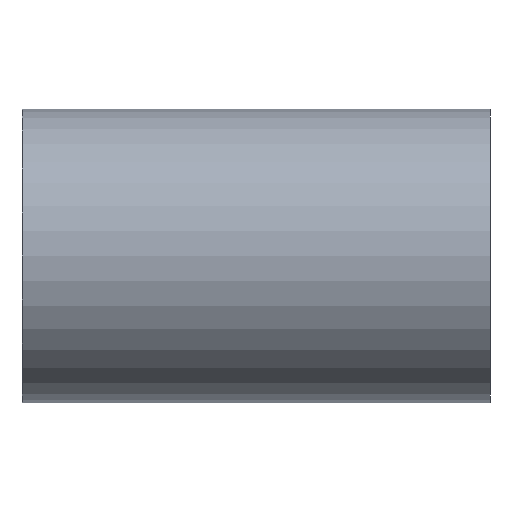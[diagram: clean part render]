
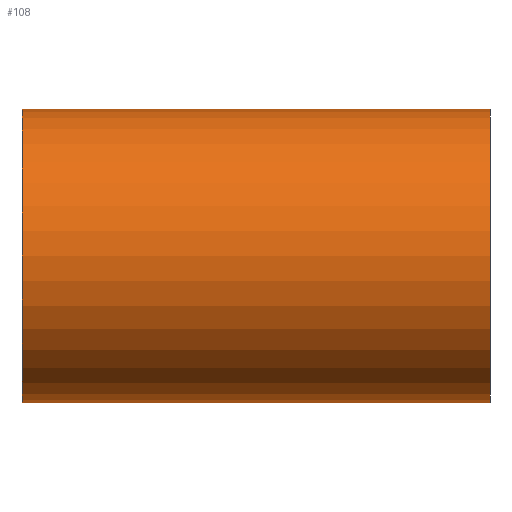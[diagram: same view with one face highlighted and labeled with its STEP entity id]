
A CAD part, front view. The second image highlights one B-rep face of the part: STEP entity #108.
In plain terms, the highlighted cylindrical face has radius 395 mm (diameter 790 mm), a partial arc.
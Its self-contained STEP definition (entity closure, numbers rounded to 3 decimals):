
#108=ADVANCED_FACE('',(#212),#213,.T.);
#212=FACE_OUTER_BOUND('',#335,.T.);
#213=CYLINDRICAL_SURFACE('',#336,395.0);
#335=EDGE_LOOP('',(#587,#588,#589,#590));
#336=AXIS2_PLACEMENT_3D('',#591,#592,#593);
#587=ORIENTED_EDGE('',*,*,#659,.T.);
#588=ORIENTED_EDGE('',*,*,#768,.F.);
#589=ORIENTED_EDGE('',*,*,#661,.T.);
#590=ORIENTED_EDGE('',*,*,#769,.F.);
#591=CARTESIAN_POINT('',(0.0,0.0,0.0));
#592=DIRECTION('',(1.0,0.0,0.0));
#593=DIRECTION('',(0.0,0.0,-1.0));
#659=EDGE_CURVE('',#773,#774,#775,.T.);
#661=EDGE_CURVE('',#778,#776,#779,.T.);
#768=EDGE_CURVE('',#778,#774,#938,.T.);
#769=EDGE_CURVE('',#773,#776,#939,.T.);
#773=VERTEX_POINT('',#943);
#774=VERTEX_POINT('',#944);
#775=LINE('',#945,#946);
#776=VERTEX_POINT('',#947);
#778=VERTEX_POINT('',#949);
#779=LINE('',#950,#951);
#938=CIRCLE('',#1136,395.0);
#939=CIRCLE('',#1137,395.0);
#943=CARTESIAN_POINT('',(-630.0,0.0,-395.0));
#944=CARTESIAN_POINT('',(630.0,0.0,-395.0));
#945=CARTESIAN_POINT('',(0.0,0.,-395.0));
#946=VECTOR('',#1140,1.0);
#947=CARTESIAN_POINT('',(-630.0,0.,395.0));
#949=CARTESIAN_POINT('',(630.0,0.,395.0));
#950=CARTESIAN_POINT('',(0.0,0.,395.0));
#951=VECTOR('',#1144,1.0);
#1136=AXIS2_PLACEMENT_3D('',#1330,#1331,#1332);
#1137=AXIS2_PLACEMENT_3D('',#1333,#1334,#1335);
#1140=DIRECTION('',(1.0,0.0,0.0));
#1144=DIRECTION('',(-1.0,-0.0,-0.0));
#1330=CARTESIAN_POINT('',(630.0,0.0,0.0));
#1331=DIRECTION('',(1.0,0.0,0.0));
#1332=DIRECTION('',(0.0,0.0,-1.0));
#1333=CARTESIAN_POINT('',(-630.0,0.0,0.0));
#1334=DIRECTION('',(-1.0,0.0,0.0));
#1335=DIRECTION('',(0.0,0.0,-1.0));
